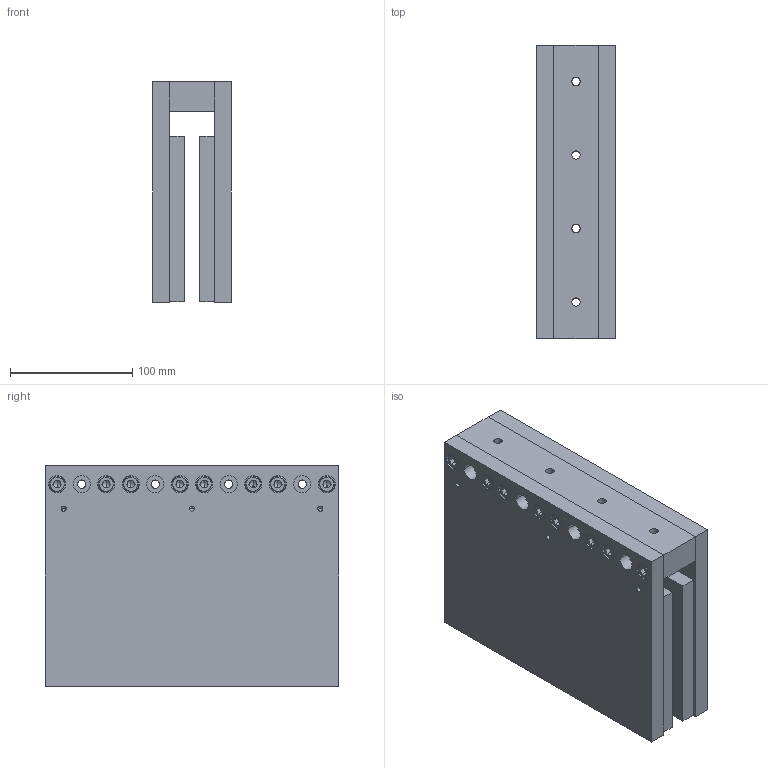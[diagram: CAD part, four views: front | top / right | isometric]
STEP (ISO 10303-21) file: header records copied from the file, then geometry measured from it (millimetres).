
FILE_DESCRIPTION (( 'STEP AP203' ), '1' );
FILE_NAME ('DX140F-TL240.step', '2021-01-04T11:08:44', ( '' ), ( '' ), 'SwSTEP 2.0', 'SolidWorks 2020', '' );
FILE_SCHEMA (( 'CONFIG_CONTROL_DESIGN' ));
Length unit declared in the file: millimetre
Products named in the file (1): DX140F-TL240
Bounding box: 64.5 x 239.5 x 180 mm (x, y, z)
Volume: 2142177.1 mm3; surface area: 249823.8 mm2
Topology: 1 solids, 25 shells, 634 faces, 1446 edges, 858 vertices
Faces by surface type: plane 290, cylinder 204, cone 108, torus 32
Entity records: 17543 total; most frequent: DIRECTION 3256, CARTESIAN_POINT 2991, ORIENTED_EDGE 2804, EDGE_CURVE 1402, AXIS2_PLACEMENT_3D 1251, VERTEX_POINT 858, LINE 754, VECTOR 754
